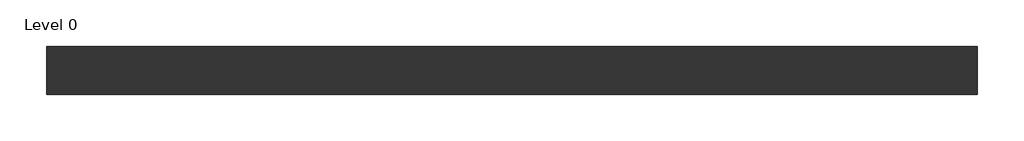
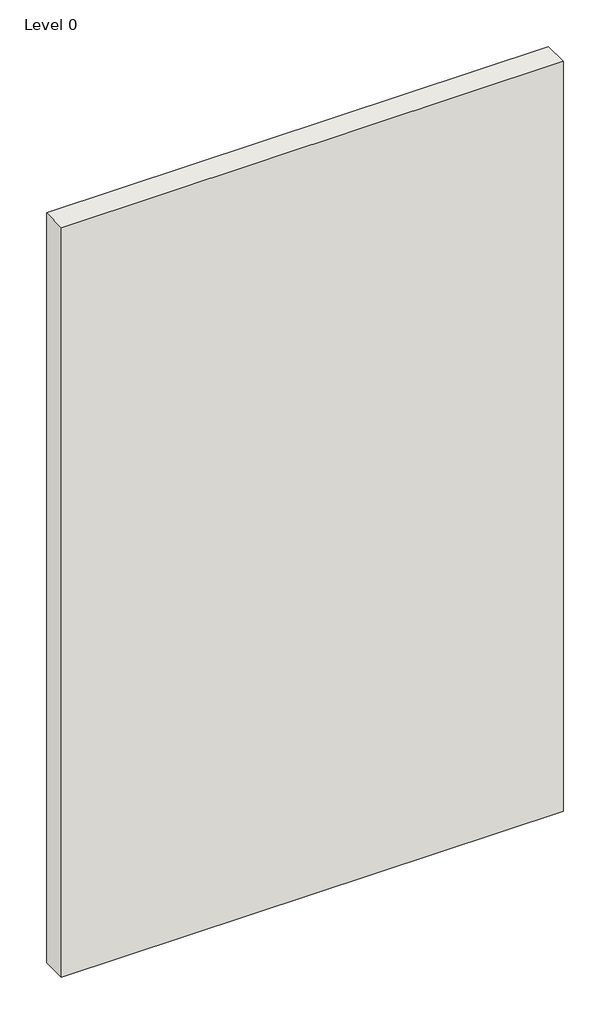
# One storey: 1 wall.
"""IFC4 building model written with IfcOpenShell, lengths in millimetres."""

from ifc_helpers import new_model, si_unit, origin, origin_with_axes, place, context, project, spatial, polyline, outline, extrude, element, save

model = new_model("IFC4")

# Units and contexts
model_context = context("Model", 3, world=origin())
ifc_project = project(units=[si_unit("LENGTHUNIT", "METRE", prefix="MILLI")], contexts=[model_context])

# Site, building, storey
site = spatial("IfcSite", under=ifc_project)
building = spatial("IfcBuilding", under=site)
storey = spatial("IfcBuildingStorey", under=building, Name="Level 0", Elevation=0.0)

# Wall
placement = place(None, origin())
element("IfcWall", 1, ObjectType="A026025 - GypWall Classic", at=placement, inside=storey, context=model_context, shape_type="SweptSolid", body=[
    extrude(outline(polyline([(1155.997948, 475.2669953), (-1944.002052, 475.2669953), (-1944.002052, 635.2669953), (1155.997948, 635.2669953), (1155.997948, 475.2669953)])), origin_with_axes(), (0.0, 0.0, 1.0), 4900.0),
])

save(model, "model.ifc")
